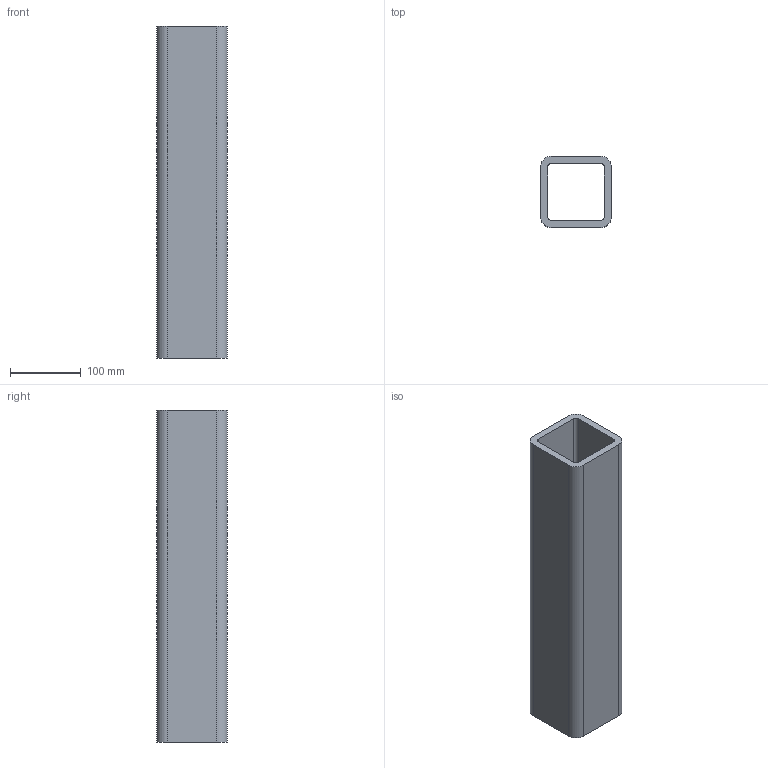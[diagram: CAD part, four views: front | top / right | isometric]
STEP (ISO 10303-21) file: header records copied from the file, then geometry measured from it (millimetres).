
FILE_DESCRIPTION(('Open CASCADE Model'),'2;1');
FILE_NAME('Open CASCADE Shape Model','2026-10-19T10:09:21',('Author'),( 'Open CASCADE'),'Open CASCADE STEP processor 8.0','Open CASCADE 8.0' ,'Unknown');
FILE_SCHEMA(('AUTOMOTIVE_DESIGN { 1 0 10303 214 1 1 1 1 }'));
Length unit declared in the file: millimetre
Products named in the file (1): BRT_OUTRIGGER_SHS100x100x10_S355_L468_P05 136
Bounding box: 100 x 100 x 468 mm (x, y, z)
Volume: 1604453.1 mm3; surface area: 327747.3 mm2
Topology: 1 solids, 1 shells, 18 faces, 48 edges, 32 vertices
Faces by surface type: plane 10, cylinder 8
Entity records: 1254 total; most frequent: CARTESIAN_POINT 291, DIRECTION 182, LINE 112, VECTOR 112, ORIENTED_EDGE 96, PCURVE 96, DEFINITIONAL_REPRESENTATION 96, EDGE_CURVE 48
